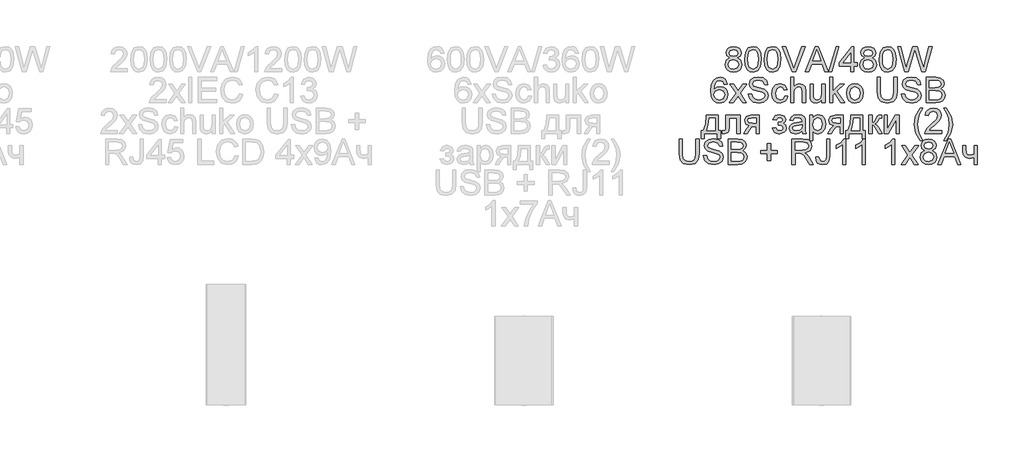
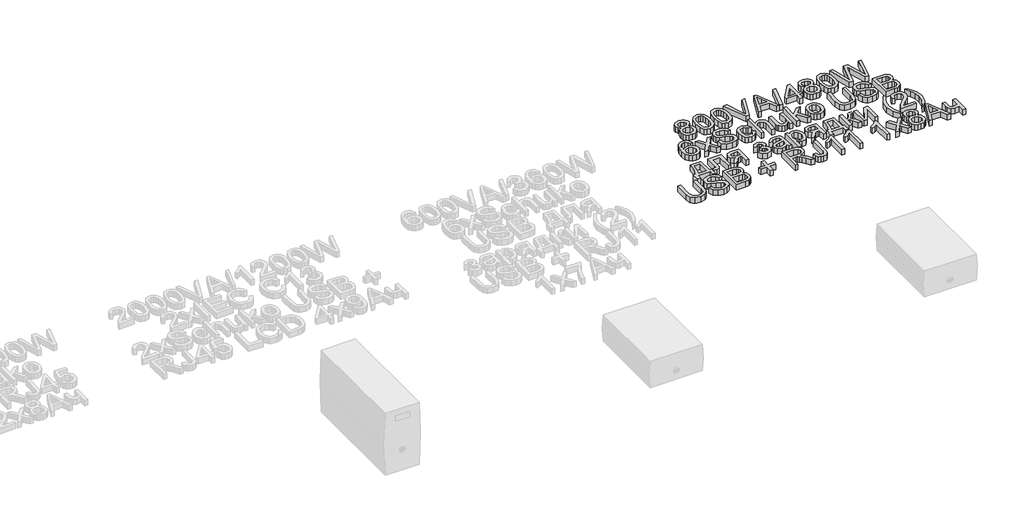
# One storey, part 51 of 74: 1 proxy.
"""IFC4 building model written with IfcOpenShell, lengths in millimetres."""

import ifcopenshell
import ifcopenshell.guid

model = None  # the IFC model being written
_history = None  # IfcOwnerHistory: only IFC2X3 demands one
_inside = {}  # id of a spatial element -> (the spatial element, [elements in it])
_under = {}  # id of a project, library or spatial element -> (it, [spatial elements below it])
_declared = {}  # id of a project -> (the project, [libraries it declares])
_typed = {}  # id of a type object -> (the type object, [elements of that type])
_made_of = {}  # id of a material, layer set ... -> (it, [elements and type objects made of it])


def new_model(schema):
    """Start an empty IFC model of exactly this schema.

    Asked for "IFC4X3", IfcOpenShell would pick the latest addendum, in which some entities
    have other attributes; the version numbers below select the first issue.
    IFC2X3 requires an IfcOwnerHistory on every rooted entity: one is made here for all.
    """
    global model, _history
    if schema == "IFC4X3":
        model = ifcopenshell.file(schema_version=(4, 3, 0, 0))
    else:
        model = ifcopenshell.file(schema=schema)
    _inside.clear()
    _under.clear()
    _declared.clear()
    _typed.clear()
    _made_of.clear()
    _history = None
    if model.schema == "IFC2X3":
        org = make("IfcOrganization", Name="unknown")
        user = make(
            "IfcPersonAndOrganization",
            ThePerson=make("IfcPerson", FamilyName="unknown"),
            TheOrganization=org,
        )
        app = make(
            "IfcApplication",
            ApplicationDeveloper=org,
            Version="unknown",
            ApplicationFullName="unknown",
            ApplicationIdentifier="unknown",
        )
        _history = make(
            "IfcOwnerHistory",
            OwningUser=user,
            OwningApplication=app,
            ChangeAction="ADDED",
            CreationDate=0,
        )
    return model


def make(cls, **values):
    """One entity of the class cls with the attributes given. An attribute that is None is left unset."""
    return model.create_entity(
        cls, **{name: value for name, value in values.items() if value is not None}
    )


def rooted(cls, **values):
    """An entity with a GlobalId (a new one), such as an element, a storey or a relation."""
    return make(cls, GlobalId=ifcopenshell.guid.new(), OwnerHistory=_history, **values)


def si_unit(unit_type, name, prefix=None):
    """IfcSIUnit, for example si_unit("LENGTHUNIT", "METRE", prefix="MILLI")."""
    return make("IfcSIUnit", UnitType=unit_type, Prefix=prefix, Name=name)


def assignment(units):
    """IfcUnitAssignment: the units of a project."""
    return None if units is None else make("IfcUnitAssignment", Units=units)


def point(xyz):
    """IfcCartesianPoint."""
    return None if xyz is None else make("IfcCartesianPoint", Coordinates=xyz)


def direction(xyz):
    """IfcDirection."""
    return None if xyz is None else make("IfcDirection", DirectionRatios=xyz)


def frame(location, z_axis=None, x_axis=None):
    """IfcAxis2Placement3D, a coordinate frame: its origin and axes. An axis left out is left unset."""
    return make(
        "IfcAxis2Placement3D",
        Location=point(location),
        Axis=direction(z_axis),
        RefDirection=direction(x_axis),
    )


def origin():
    """The frame at (0, 0, 0) with its axes left unset."""
    return frame((0.0, 0.0, 0.0))


def origin_with_axes():
    """The frame at (0, 0, 0) with the z axis (0, 0, 1) and the x axis (1, 0, 0) written out."""
    return frame((0.0, 0.0, 0.0), z_axis=(0.0, 0.0, 1.0), x_axis=(1.0, 0.0, 0.0))


def place(relative_to, where):
    """IfcLocalPlacement: puts the frame where relative to a parent placement (None: the world)."""
    return make(
        "IfcLocalPlacement", PlacementRelTo=relative_to, RelativePlacement=where
    )


def context(
    kind, dimensions, precision=None, world=None, true_north=None, identifier=None
):
    """IfcGeometricRepresentationContext, for example the 3D "Model" context."""
    return make(
        "IfcGeometricRepresentationContext",
        ContextIdentifier=identifier,
        ContextType=kind,
        CoordinateSpaceDimension=dimensions,
        Precision=precision,
        WorldCoordinateSystem=world,
        TrueNorth=true_north,
    )


def project(units=None, contexts=None):
    """IfcProject with its units and contexts."""
    return rooted(
        "IfcProject",
        Name="project",
        RepresentationContexts=contexts,
        UnitsInContext=assignment(units),
    )


def spatial(cls, under=None, at=None, **own):
    """A site, building, storey or space (cls), placed at a placement, below another one or the project."""
    s = rooted(cls, ObjectPlacement=at, **own)
    if under is not None:
        _under.setdefault(under.id(), (under, []))[1].append(s)
    return s


def polyline(points):
    """IfcPolyline through the points."""
    return make("IfcPolyline", Points=[point(p) for p in points])


def outline(outer, holes=None, kind="AREA"):
    """IfcArbitraryClosedProfileDef: a profile drawn as a closed curve; with holes, ...WithVoids."""
    if holes is None:
        return make("IfcArbitraryClosedProfileDef", ProfileType=kind, OuterCurve=outer)
    return make(
        "IfcArbitraryProfileDefWithVoids",
        ProfileType=kind,
        OuterCurve=outer,
        InnerCurves=holes,
    )


def extrude(swept, where, along, depth):
    """IfcExtrudedAreaSolid: the profile swept, set in the frame where, extruded along a direction by depth."""
    return make(
        "IfcExtrudedAreaSolid",
        SweptArea=swept,
        Position=where,
        ExtrudedDirection=direction(along),
        Depth=depth,
    )


def shape(context_of_items, identifier, shape_type, items):
    """IfcShapeRepresentation: the items that make up one representation, for example the "Body"."""
    return make(
        "IfcShapeRepresentation",
        ContextOfItems=context_of_items,
        RepresentationIdentifier=identifier,
        RepresentationType=shape_type,
        Items=items,
    )


def made_of(thing, what):
    """Note that an element or type object is made of a material, layer set ...; save() writes the relation."""
    if what is not None:
        _made_of.setdefault(what.id(), (what, []))[1].append(thing)
    return thing


def element(
    cls,
    number,
    at=None,
    inside=None,
    cuts=None,
    type_object=None,
    material=None,
    context=None,
    identifier="Body",
    shape_type=None,
    held_by="IfcProductDefinitionShape",
    body=None,
    shapes=None,
    **own,
):
    """One element of the class cls, such as IfcWall. Its Tag is "e" and its number.

    at: its placement. inside: the storey or other place that contains it. cuts: it is an
    opening in that element (IfcRelVoidsElement). A single representation is given by context,
    identifier, shape_type and body (its items); several are given by shapes. held_by: the class
    of the entity that holds the representations. save() writes the other relations.
    """
    e = rooted(cls, Tag="e%d" % number, ObjectPlacement=at, **own)
    if body is not None:
        shapes = [shape(context, identifier, shape_type, body)]
    if shapes is not None:
        e.Representation = make(held_by, Representations=shapes)
    if inside is not None:
        _inside.setdefault(inside.id(), (inside, []))[1].append(e)
    if cuts is not None:
        rooted(
            "IfcRelVoidsElement", RelatingBuildingElement=cuts, RelatedOpeningElement=e
        )
    if type_object is not None:
        _typed.setdefault(type_object.id(), (type_object, []))[1].append(e)
    return made_of(e, material)


def aggregate(whole, parts):
    """IfcRelAggregates: a whole, such as a stair, and the parts it consists of."""
    return rooted("IfcRelAggregates", RelatingObject=whole, RelatedObjects=parts)


def save(model, path):
    """Write the relations noted so far, then the file.

    IfcRelAggregates (storeys below a building ...), IfcRelContainedInSpatialStructure (elements
    in a storey), IfcRelDefinesByType, IfcRelAssociatesMaterial and IfcRelDeclares: one each for
    every whole, place, type object, material and project.
    """
    for whole, parts in _under.values():
        aggregate(whole, parts)
    for where, things in _inside.values():
        rooted(
            "IfcRelContainedInSpatialStructure",
            RelatedElements=things,
            RelatingStructure=where,
        )
    for kind, things in _typed.values():
        rooted("IfcRelDefinesByType", RelatedObjects=things, RelatingType=kind)
    for what, things in _made_of.values():
        rooted("IfcRelAssociatesMaterial", RelatedObjects=things, RelatingMaterial=what)
    for by, libraries in _declared.values():
        rooted("IfcRelDeclares", RelatingContext=by, RelatedDefinitions=libraries)
    model.write(path)


model = new_model("IFC4")

# Units and contexts
model_context = context("Model", 3, world=origin())
ifc_project = project(units=[si_unit("LENGTHUNIT", "METRE", prefix="MILLI")], contexts=[model_context])

# Site, building, storey
site = spatial("IfcSite", under=ifc_project)
building = spatial("IfcBuilding", under=site)
storey = spatial("IfcBuildingStorey", under=building, Name="Этаж 01", Elevation=0.0)

# Proxy
placement = place(None, origin())
element("IfcBuildingElementProxy", 1, Name="80 мм Arial", ObjectType="80 мм Arial", at=placement, inside=storey, context=model_context, shape_type="SweptSolid", body=[
    extrude(outline(polyline([(10479.4918629, -10982.3697643), (10470.3389588, -10976.1304857), (10467.3664723, -10966.418401), (10468.9851531, -10958.5653467), (10473.8411954, -10952.0759083), (10481.390134, -10947.7201854), (10491.0875034, -10946.2682778), (10500.8437339, -10947.7545211), (10508.4907743, -10952.2132509), (10513.4351083, -10958.8056962), (10515.0832196, -10966.6930862), (10512.1499739, -10976.1599162), (10503.2521347, -10982.3697643), (10513.9354278, -10990.2473441), (10517.5946274, -11003.2458413), (10515.7797429, -11012.8500139), (10510.3350894, -11020.7864548), (10501.9277595, -11026.1133861), (10491.224846, -11027.8890298), (10480.5219325, -11026.1060284), (10472.1146026, -11020.7570242), (10466.6699491, -11012.7445544), (10464.8550646, -11002.971156), (10468.6614169, -10989.6685431), (10479.4918629, -10982.3697643)]), holes=[polyline([(10477.4121033, -10966.7127066), (10480.973201, -10974.6000966), (10491.3425682, -10977.6608748), (10501.5059215, -10974.6197169), (10505.0375886, -10967.1639752), (10501.3881992, -10959.4433584), (10491.224846, -10956.3139089), (10481.0320622, -10959.3746871), (10477.4121033, -10966.7127066)]), polyline([(10474.9006956, -11002.6179893), (10476.5782375, -11010.1816431), (10482.5134003, -11015.8421208), (10491.3033275, -11017.8433988), (10503.271755, -11013.6348288), (10507.5489964, -11002.9319153), (10503.1344124, -10992.0229879), (10490.9697811, -10987.7065058), (10479.1485063, -10991.9641267), (10474.9006956, -11002.6179893)])]), origin_with_axes(), (0.0, 0.0, 1.0), 20.0),
    extrude(outline(polyline([(10526.3845545, -10987.0982742), (10529.3374207, -10963.9756645), (10538.1077274, -10950.643621), (10552.7543359, -10946.2682778), (10564.487319, -10948.8581671), (10572.5905331, -10956.323719), (10577.2994227, -10968.2136651), (10579.1241174, -10987.0982742), (10576.2006818, -11010.122782), (10567.4598056, -11023.4842561), (10552.7543359, -11027.8890298), (10542.3162975, -11025.9760435), (10534.3896667, -11020.2370843), (10528.3858326, -11006.6450709), (10526.3845545, -10987.0982742)]), holes=[polyline([(10536.4301855, -10987.0786538), (10537.6074079, -11002.8804118), (10541.1390751, -11012.0259582), (10552.7543359, -11017.8433988), (10564.3695968, -11012.0063378), (10567.901264, -11002.8558863), (10569.0784863, -10987.0786538), (10567.9405047, -10971.6325151), (10564.5265598, -10962.4158449), (10559.27811, -10957.8393929), (10552.6366137, -10956.3139089), (10541.2960381, -10961.6898911), (10537.6466487, -10971.4804572), (10536.4301855, -10987.0786538)])]), origin_with_axes(), (0.0, 0.0, 1.0), 20.0),
    extrude(outline(polyline([(10587.9140445, -10987.0982742), (10590.8669106, -10963.9756645), (10599.6372174, -10950.643621), (10614.2838259, -10946.2682778), (10626.016809, -10948.8581671), (10634.1200231, -10956.323719), (10638.8289126, -10968.2136651), (10640.6536073, -10987.0982742), (10637.7301717, -11010.122782), (10628.9892955, -11023.4842561), (10614.2838259, -11027.8890298), (10603.8457874, -11025.9760435), (10595.9191567, -11020.2370843), (10589.9153225, -11006.6450709), (10587.9140445, -10987.0982742)]), holes=[polyline([(10597.9596755, -10987.0786538), (10599.1368979, -11002.8804118), (10602.668565, -11012.0259582), (10614.2838259, -11017.8433988), (10625.8990868, -11012.0063378), (10629.4307539, -11002.8558863), (10630.6079763, -10987.0786538), (10629.4699947, -10971.6325151), (10626.0560498, -10962.4158449), (10620.8076, -10957.8393929), (10614.1661037, -10956.3139089), (10602.825528, -10961.6898911), (10599.1761386, -10971.4804572), (10597.9596755, -10987.0786538)])]), origin_with_axes(), (0.0, 0.0, 1.0), 20.0),
    extrude(outline(polyline([(10717.9382569, -11026.633326), (10750.0175668, -10946.2682778), (10758.5720495, -10946.2682778), (10790.6513595, -11026.633326), (10780.0367377, -11026.633326), (10770.8347827, -11001.5192484), (10737.7352133, -11001.5192484), (10728.5528787, -11026.633326), (10717.9382569, -11026.633326)]), holes=[polyline([(10741.4238434, -10991.4736174), (10767.1657729, -10991.4736174), (10759.9258553, -10971.7159017), (10754.2948082, -10956.3139089), (10749.291613, -10969.9893089), (10741.4238434, -10991.4736174)])]), origin_with_axes(), (0.0, 0.0, 1.0), 20.0),
    extrude(outline(polyline([(10676.9512975, -11026.633326), (10644.9700894, -10946.2682778), (10655.7220538, -10946.2682778), (10677.1278809, -11004.1679988), (10681.4639833, -11017.2155469), (10685.7412247, -11004.1679988), (10707.2059128, -10946.2682778), (10717.9578772, -10946.2682778), (10687.3304749, -11026.633326), (10676.9512975, -11026.633326)])), origin_with_axes(), (0.0, 0.0, 1.0), 20.0),
    extrude(outline(polyline([(10792.5937764, -11026.633326), (10815.1964462, -10946.2682778), (10824.2610586, -10946.2682778), (10801.6583888, -11026.633326), (10792.5937764, -11026.633326)])), origin_with_axes(), (0.0, 0.0, 1.0), 20.0),
    extrude(outline(polyline([(10861.6574897, -11026.633326), (10861.6574897, -11007.7977678), (10825.2420772, -11007.7977678), (10825.2420772, -10997.7521368), (10864.1688974, -10947.5239817), (10871.7031207, -10947.5239817), (10871.7031207, -10997.7521368), (10881.7487517, -10997.7521368), (10881.7487517, -11007.7977678), (10871.7031207, -11007.7977678), (10871.7031207, -11026.633326), (10861.6574897, -11026.633326)]), holes=[polyline([(10861.6574897, -10997.7521368), (10861.6574897, -10966.7127066), (10837.6029123, -10997.7521368), (10861.6574897, -10997.7521368)])]), origin_with_axes(), (0.0, 0.0, 1.0), 20.0),
    extrude(outline(polyline([(10905.1754771, -10982.3697643), (10896.0225731, -10976.1304857), (10893.0500866, -10966.418401), (10894.6687674, -10958.5653467), (10899.5248097, -10952.0759083), (10907.0737482, -10947.7201854), (10916.7711176, -10946.2682778), (10926.5273481, -10947.7545211), (10934.1743885, -10952.2132509), (10939.1187226, -10958.8056962), (10940.7668339, -10966.6930862), (10937.8335881, -10976.1599162), (10928.9357489, -10982.3697643), (10939.6190421, -10990.2473441), (10943.2782416, -11003.2458413), (10941.4633571, -11012.8500139), (10936.0187036, -11020.7864548), (10927.6113737, -11026.1133861), (10916.9084602, -11027.8890298), (10906.2055467, -11026.1060284), (10897.7982169, -11020.7570242), (10892.3535633, -11012.7445544), (10890.5386788, -11002.971156), (10894.3450312, -10989.6685431), (10905.1754771, -10982.3697643)]), holes=[polyline([(10903.0957176, -10966.7127066), (10906.6568153, -10974.6000966), (10917.0261825, -10977.6608748), (10927.1895357, -10974.6197169), (10930.7212029, -10967.1639752), (10927.0718135, -10959.4433584), (10916.9084602, -10956.3139089), (10906.7156764, -10959.3746871), (10903.0957176, -10966.7127066)]), polyline([(10900.5843098, -11002.6179893), (10902.2618517, -11010.1816431), (10908.1970146, -11015.8421208), (10916.9869417, -11017.8433988), (10928.9553693, -11013.6348288), (10933.2326106, -11002.9319153), (10928.8180267, -10992.0229879), (10916.6533954, -10987.7065058), (10904.8321206, -10991.9641267), (10900.5843098, -11002.6179893)])]), origin_with_axes(), (0.0, 0.0, 1.0), 20.0),
    extrude(outline(polyline([(10952.0681688, -10987.0982742), (10955.0210349, -10963.9756645), (10963.7913417, -10950.643621), (10978.4379502, -10946.2682778), (10990.1709333, -10948.8581671), (10998.2741474, -10956.323719), (11002.9830369, -10968.2136651), (11004.8077316, -10987.0982742), (11001.884296, -11010.122782), (10993.1434198, -11023.4842561), (10978.4379502, -11027.8890298), (10967.9999117, -11025.9760435), (10960.073281, -11020.2370843), (10954.0694468, -11006.6450709), (10952.0681688, -10987.0982742)]), holes=[polyline([(10962.1137998, -10987.0786538), (10963.2910222, -11002.8804118), (10966.8226893, -11012.0259582), (10978.4379502, -11017.8433988), (10990.0532111, -11012.0063378), (10993.5848782, -11002.8558863), (10994.7621006, -10987.0786538), (10993.624119, -10971.6325151), (10990.210174, -10962.4158449), (10984.9617242, -10957.8393929), (10978.320228, -10956.3139089), (10966.9796523, -10961.6898911), (10963.3302629, -10971.4804572), (10962.1137998, -10987.0786538)])]), origin_with_axes(), (0.0, 0.0, 1.0), 20.0),
    extrude(outline(polyline([(11031.7465038, -11026.633326), (11009.8305471, -10946.2682778), (11020.1901041, -10946.2682778), (11032.9041059, -10999.0863222), (11036.8281805, -11015.3908522), (11041.0269403, -11000.969878), (11056.9586833, -10946.2682778), (11071.8897872, -10946.2682778), (11083.4658073, -10985.9210518), (11092.0791511, -11015.3908522), (11095.8855034, -10999.5572111), (11108.7172274, -10946.2682778), (11119.0767844, -10946.2682778), (11097.1412073, -11026.633326), (11086.4088632, -11026.633326), (11067.1416569, -10964.632947), (11064.4536658, -10955.9803625), (11061.4321283, -10966.3987806), (11043.8718944, -11026.633326), (11031.7465038, -11026.633326)])), origin_with_axes(), (0.0, 0.0, 1.0), 20.0),
    extrude(outline(polyline([(10471.7614359, -11065.195098), (10461.7158049, -11066.4508019), (10457.9094525, -11058.0729026), (10447.8442011, -11053.8937631), (10438.7795887, -11056.3266894), (10431.9222684, -11065.4599731), (10429.0675041, -11083.3635635), (10437.9261025, -11075.3486411), (10448.9037012, -11072.7293213), (10458.1841377, -11074.5196803), (10465.9734258, -11079.8907575), (10471.2562113, -11088.0969785), (10473.0171398, -11098.3927693), (10469.7012967, -11112.2545628), (10460.5778232, -11122.0647494), (10447.4125529, -11125.4688841), (10436.0155687, -11123.2125412), (10426.9386936, -11116.4435125), (10421.0010782, -11104.4947053), (10419.0218731, -11086.6990269), (10421.2193548, -11066.6911515), (10427.8118002, -11053.0108463), (10436.8126463, -11046.1388107), (10448.472053, -11043.8481321), (10457.2865056, -11045.2657041), (10464.3449349, -11049.5184199), (10471.7614359, -11065.195098)]), holes=[polyline([(10429.0675041, -11098.2358063), (10431.3925183, -11106.9374417), (10437.5729358, -11113.2552019), (10446.627738, -11115.4232531), (10458.4686331, -11110.9301877), (10462.9715087, -11098.7263156), (10458.5274942, -11087.0423834), (10446.2157101, -11082.7749523), (10434.060889, -11087.0423834), (10429.0675041, -11098.2358063)])]), origin_with_axes(), (0.0, 0.0, 1.0), 20.0),
    extrude(outline(polyline([(10478.0399553, -11124.2131802), (10499.5046434, -11094.5471761), (10479.2956591, -11065.195098), (10491.381809, -11065.195098), (10501.1331344, -11079.3217666), (10505.6850609, -11085.9926935), (10509.6287559, -11080.5382298), (10520.7338871, -11065.195098), (10532.8200369, -11065.195098), (10511.5907932, -11094.5471761), (10532.035222, -11124.2131802), (10519.9490722, -11124.2131802), (10507.6470982, -11106.3782611), (10505.3907553, -11103.1212792), (10490.1261051, -11124.2131802), (10478.0399553, -11124.2131802)])), origin_with_axes(), (0.0, 0.0, 1.0), 20.0),
    extrude(outline(polyline([(10538.3137414, -11096.5876949), (10548.3593724, -11096.5876949), (10551.5967339, -11106.6431361), (10559.5037443, -11113.000137), (10571.5506533, -11115.4232531), (10582.0475529, -11113.5887482), (10588.8263918, -11108.5463123), (10591.0533042, -11101.8067142), (10589.3855725, -11095.538005), (10582.5576826, -11090.9762682), (10567.9306945, -11087.1404853), (10552.1853451, -11082.1863411), (10543.6406726, -11074.710979), (10540.8251491, -11064.7242091), (10544.3077653, -11053.3542029), (10554.4809288, -11045.3294703), (10569.3727919, -11042.5924282), (10585.2652941, -11045.4570027), (10595.8602956, -11053.8741428), (10599.8432313, -11066.4508019), (10589.7976003, -11066.4508019), (10584.1076921, -11056.1304857), (10569.7651994, -11052.6380593), (10555.3834659, -11056.0912449), (10550.8707801, -11064.4299035), (10554.0689009, -11071.3951359), (10570.4715328, -11077.0065626), (10588.2475908, -11082.0489985), (10597.9694857, -11090.1914533), (10601.0989352, -11101.5516493), (10597.4985967, -11113.5691278), (10587.1390398, -11122.3394346), (10571.9430608, -11125.4688841), (10554.0002296, -11122.0941799), (10542.6498438, -11111.9308267), (10538.3137414, -11096.5876949)])), origin_with_axes(), (0.0, 0.0, 1.0), 20.0),
    extrude(outline(polyline([(10652.5827942, -11102.8662143), (10662.6284252, -11104.1219182), (10659.8276169, -11113.0565456), (10654.5644518, -11119.8084065), (10638.6327089, -11125.4688841), (10627.9469632, -11123.4945841), (10619.5911368, -11117.571684), (10614.1979868, -11107.9601537), (10612.4002701, -11094.9199632), (10615.4708585, -11078.2328359), (10624.8297764, -11067.510302), (10638.4953663, -11063.9393941), (10653.7698267, -11068.8444874), (10661.3727213, -11082.7749523), (10651.3270903, -11084.0306562), (10646.6672517, -11076.5062431), (10638.5738478, -11073.9850252), (10626.9291564, -11078.9489796), (10622.4459011, -11094.645278), (10626.8310545, -11110.4887293), (10638.2991626, -11115.4232531), (10647.7659926, -11112.3428545), (10652.5827942, -11102.8662143)])), origin_with_axes(), (0.0, 0.0, 1.0), 20.0),
    extrude(outline(polyline([(10671.4183523, -11124.2131802), (10671.4183523, -11043.8481321), (10681.4639833, -11043.8481321), (10681.4639833, -11073.396414), (10689.2974173, -11066.3036491), (10698.9457357, -11063.9393941), (10710.2274502, -11066.5194732), (10717.0749605, -11073.6514788), (10719.1350996, -11086.8559899), (10719.1350996, -11124.2131802), (10709.0894686, -11124.2131802), (10709.0894686, -11087.8958697), (10705.8913478, -11077.3008682), (10696.8267354, -11073.9850252), (10688.5959889, -11076.2217477), (10683.1022845, -11082.284443), (10681.4639833, -11092.8598241), (10681.4639833, -11124.2131802), (10671.4183523, -11124.2131802)])), origin_with_axes(), (0.0, 0.0, 1.0), 20.0),
    extrude(outline(polyline([(10770.6189586, -11124.2131802), (10770.6189586, -11114.0694474), (10762.751189, -11122.6190249), (10752.4897339, -11125.4688841), (10743.0425242, -11123.4676061), (10736.5285604, -11118.4447906), (10733.5364535, -11111.0479099), (10732.9478423, -11101.7086123), (10732.9478423, -11065.195098), (10742.9934733, -11065.195098), (10742.9934733, -11096.9801024), (10743.6017049, -11107.2219372), (10747.5748304, -11113.2355815), (10755.0600027, -11115.4232531), (10763.4477122, -11113.1865306), (10768.9904676, -11107.0944047), (10770.6189586, -11095.9009819), (10770.6189586, -11065.195098), (10780.6645896, -11065.195098), (10780.6645896, -11124.2131802), (10770.6189586, -11124.2131802)])), origin_with_axes(), (0.0, 0.0, 1.0), 20.0),
    extrude(outline(polyline([(10794.4773322, -11124.2131802), (10794.4773322, -11043.8481321), (10804.5229633, -11043.8481321), (10804.5229633, -11087.0325733), (10827.0471515, -11065.195098), (10840.9383757, -11065.195098), (10818.1395022, -11087.3072585), (10842.1940796, -11124.2131802), (10830.4610965, -11124.2131802), (10810.9388252, -11094.2921113), (10804.5229633, -11100.5117696), (10804.5229633, -11124.2131802), (10794.4773322, -11124.2131802)])), origin_with_axes(), (0.0, 0.0, 1.0), 20.0),
    extrude(outline(polyline([(10848.4725989, -11094.7041391), (10850.6455553, -11080.4744636), (10857.1644242, -11070.4729784), (10865.2185874, -11065.5727902), (10874.8620007, -11063.9393941), (10885.4153089, -11065.9284095), (10893.8447117, -11071.8954554), (10899.3702992, -11081.3696431), (10901.2121618, -11093.8800835), (10897.9551798, -11111.7542433), (10888.4687295, -11121.8685457), (10874.8620007, -11125.4688841), (10864.1811601, -11123.4872264), (10855.7615675, -11117.5422534), (10850.2948411, -11107.8694095), (10848.4725989, -11094.7041391)]), holes=[polyline([(10858.51823, -11094.6845188), (10863.1682584, -11110.2532848), (10874.8620007, -11115.4232531), (10886.5165023, -11110.2238542), (10891.1665308, -11094.3705928), (10886.4870718, -11079.1549935), (10874.8620007, -11073.9850252), (10863.1682584, -11079.1353731), (10858.51823, -11094.6845188)])]), origin_with_axes(), (0.0, 0.0, 1.0), 20.0),
    extrude(outline(polyline([(10997.9013603, -11043.8481321), (11007.9469913, -11043.8481321), (11007.9469913, -11090.2110737), (11005.2197594, -11109.4292291), (10995.3899525, -11121.0052492), (10976.7505981, -11125.4688841), (10958.3957391, -11121.5840502), (10948.2127655, -11110.3317663), (10945.1617975, -11090.2110737), (10945.1617975, -11043.8481321), (10955.2074285, -11043.8481321), (10955.2074285, -11089.857907), (10957.1890862, -11105.1716082), (10963.9973556, -11112.7548824), (10975.8088202, -11115.4232531), (10986.0261295, -11114.103783), (10992.8196837, -11110.1453727), (10996.6309411, -11102.4345661), (10997.9013603, -11089.857907), (10997.9013603, -11043.8481321)])), origin_with_axes(), (0.0, 0.0, 1.0), 20.0),
    extrude(outline(polyline([(11021.759734, -11096.5876949), (11031.805365, -11096.5876949), (11035.0427265, -11106.6431361), (11042.9497369, -11113.000137), (11054.9966459, -11115.4232531), (11065.4935455, -11113.5887482), (11072.2723844, -11108.5463123), (11074.4992968, -11101.8067142), (11072.8315651, -11095.538005), (11066.0036752, -11090.9762682), (11051.3766871, -11087.1404853), (11035.6313377, -11082.1863411), (11027.0866652, -11074.710979), (11024.2711417, -11064.7242091), (11027.7537579, -11053.3542029), (11037.9269214, -11045.3294703), (11052.8187845, -11042.5924282), (11068.7112867, -11045.4570027), (11079.3062882, -11053.8741428), (11083.2892239, -11066.4508019), (11073.2435929, -11066.4508019), (11067.5536847, -11056.1304857), (11053.211192, -11052.6380593), (11038.8294585, -11056.0912449), (11034.3167727, -11064.4299035), (11037.5148935, -11071.3951359), (11053.9175254, -11077.0065626), (11071.6935834, -11082.0489985), (11081.4154783, -11090.1914533), (11084.5449278, -11101.5516493), (11080.9445893, -11113.5691278), (11070.5850324, -11122.3394346), (11055.3890534, -11125.4688841), (11037.4462222, -11122.0941799), (11026.0958364, -11111.9308267), (11021.759734, -11096.5876949)])), origin_with_axes(), (0.0, 0.0, 1.0), 20.0),
    extrude(outline(polyline([(11099.6133743, -11124.2131802), (11099.6133743, -11043.8481321), (11130.2800174, -11043.8481321), (11145.299413, -11046.2123871), (11154.1678217, -11053.4817353), (11157.3757527, -11063.7628108), (11154.6779514, -11073.1511593), (11146.5256863, -11080.2635445), (11156.4241646, -11087.7585271), (11159.8871604, -11100.2567047), (11157.5229055, -11111.0577201), (11151.6662241, -11118.7489063), (11142.9253479, -11122.8299439), (11130.044573, -11124.2131802), (11099.6133743, -11124.2131802)]), holes=[polyline([(11109.6590053, -11076.4964329), (11128.0040542, -11076.4964329), (11138.7167779, -11075.6331365), (11145.1620704, -11071.9150758), (11147.3301216, -11065.3716814), (11145.3092232, -11058.8184768), (11139.5212132, -11054.9434531), (11126.6110077, -11053.8937631), (11109.6590053, -11053.8937631), (11109.6590053, -11076.4964329)]), polyline([(11109.6590053, -11114.1675492), (11130.2603971, -11114.1675492), (11137.7161388, -11113.7751418), (11144.0240888, -11111.5874702), (11148.2032282, -11107.1238353), (11149.8415294, -11100.3548066), (11147.9187328, -11092.5458981), (11141.6892644, -11087.8860595), (11129.2793784, -11086.5420639), (11109.6590053, -11086.5420639), (11109.6590053, -11114.1675492)])]), origin_with_axes(), (0.0, 0.0, 1.0), 20.0),
    extrude(outline(polyline([(10405.2091304, -11162.7749523), (10442.8802467, -11162.7749523), (10442.8802467, -11211.7474035), (10450.41447, -11211.7474035), (10450.41447, -11238.1171849), (10440.368839, -11238.1171849), (10440.368839, -11221.7930345), (10398.930611, -11221.7930345), (10398.930611, -11238.1171849), (10388.88498, -11238.1171849), (10388.88498, -11211.7474035), (10395.1634994, -11211.7474035), (10402.9233569, -11192.5881092), (10405.2091304, -11162.7749523)]), holes=[polyline([(10413.9990575, -11172.8205833), (10411.6446128, -11195.7077485), (10406.4648343, -11211.7474035), (10432.8346157, -11211.7474035), (10432.8346157, -11172.8205833), (10413.9990575, -11172.8205833)])]), origin_with_axes(), (0.0, 0.0, 1.0), 20.0),
    extrude(outline(polyline([(10466.7386204, -11162.7749523), (10511.9439599, -11162.7749523), (10511.9439599, -11221.7341734), (10501.8983289, -11221.7341734), (10501.8983289, -11172.8205833), (10476.7842514, -11172.8205833), (10476.7842514, -11200.9758187), (10476.1073485, -11213.9645057), (10472.3892878, -11219.4483999), (10463.5993607, -11221.7930345), (10455.4372855, -11221.2829048), (10455.4372855, -11211.7474035), (10459.9303509, -11211.7474035), (10464.4724673, -11211.1293617), (10466.2873518, -11209.1673244), (10466.7386204, -11200.4068279), (10466.7386204, -11162.7749523)])), origin_with_axes(), (0.0, 0.0, 1.0), 20.0),
    extrude(outline(polyline([(10572.217746, -11162.7749523), (10572.217746, -11221.7930345), (10562.172115, -11221.7930345), (10562.172115, -11199.1903647), (10556.6980309, -11199.1903647), (10549.2422892, -11200.465689), (10542.237816, -11209.039792), (10534.2327038, -11221.7930345), (10522.6174429, -11221.7930345), (10532.7023147, -11205.6650878), (10541.2567973, -11197.3068089), (10529.563055, -11191.2048729), (10525.7567026, -11179.8250565), (10530.9561015, -11167.5034622), (10546.0049276, -11162.7749523), (10572.217746, -11162.7749523)]), holes=[polyline([(10562.172115, -11172.8205833), (10548.9283632, -11172.8205833), (10538.2058293, -11175.1455975), (10535.8023336, -11180.5902511), (10539.3438109, -11187.0747844), (10551.8910395, -11189.1447337), (10562.172115, -11189.1447337), (10562.172115, -11172.8205833)])]), origin_with_axes(), (0.0, 0.0, 1.0), 20.0),
    extrude(outline(polyline([(10632.4915321, -11195.4232531), (10632.4915321, -11185.3776221), (10640.4181628, -11184.9852146), (10644.420719, -11182.8956449), (10646.3042748, -11178.5301119), (10643.7830568, -11173.4582454), (10637.2789032, -11171.5648794), (10630.5589254, -11173.4484353), (10626.2130127, -11179.0991027), (10614.9116778, -11177.8433988), (10622.4655215, -11165.600286), (10636.2586438, -11161.5192484), (10651.0131643, -11166.493013), (10656.3499058, -11178.3731489), (10654.4516347, -11184.6124275), (10648.7568214, -11189.4390393), (10655.3983177, -11195.6979383), (10657.6056097, -11204.7036896), (10656.2052055, -11212.0981177), (10652.0039931, -11217.9572516), (10636.3371252, -11223.0487384), (10620.8860814, -11218.3398489), (10613.655974, -11204.2131802), (10624.9573089, -11202.9574764), (10629.489615, -11210.3739774), (10637.2985235, -11213.0031074), (10644.6365431, -11210.4818894), (10647.5599786, -11204.0365969), (10645.7450941, -11198.7587165), (10641.8798806, -11195.9333828), (10634.4535694, -11195.364392), (10632.4915321, -11195.4232531)])), origin_with_axes(), (0.0, 0.0, 1.0), 20.0),
    extrude(outline(polyline([(10707.8337647, -11214.2588113), (10698.0922495, -11221.0670807), (10687.3304749, -11223.0487384), (10672.7427275, -11218.2809877), (10667.6512407, -11206.0967361), (10669.5740372, -11198.150485), (10674.6262833, -11192.3820953), (10681.6601871, -11189.0858726), (10690.3520123, -11187.5751039), (10707.7749036, -11184.1219182), (10707.8337647, -11181.8851957), (10705.0672921, -11174.4686947), (10693.962161, -11171.5648794), (10683.7988077, -11173.4974862), (10678.9525756, -11180.3548066), (10668.9069446, -11179.0991027), (10673.2528572, -11169.2889162), (10682.0035436, -11163.5401468), (10695.2571056, -11161.5192484), (10707.4315471, -11163.3047024), (10714.3084878, -11167.7879576), (10717.3888864, -11174.6060373), (10717.8793957, -11183.3959644), (10717.8793957, -11195.8941421), (10718.3895254, -11213.3464639), (10720.3908035, -11221.7930345), (10710.3451725, -11221.7930345), (10707.8337647, -11214.2588113)]), holes=[polyline([(10707.8337647, -11194.1675492), (10691.6273366, -11197.2479478), (10682.9845622, -11198.8764388), (10679.0702978, -11201.5251891), (10677.6968717, -11205.3904026), (10680.6889786, -11210.825246), (10689.4690955, -11213.0031074), (10699.6324488, -11210.5996117), (10706.1856534, -11204.7821711), (10707.7749036, -11197.0125033), (10707.8337647, -11194.1675492)])]), origin_with_axes(), (0.0, 0.0, 1.0), 20.0),
    extrude(outline(polyline([(10731.6921384, -11244.3957043), (10731.6921384, -11162.7749523), (10741.7377694, -11162.7749523), (10741.7377694, -11172.6243796), (10748.6833815, -11164.2955312), (10758.0619198, -11161.5192484), (10770.7955419, -11165.4040823), (10779.1145801, -11176.3522505), (10781.9202935, -11191.8327248), (10778.7516032, -11208.1078243), (10769.5496482, -11219.1933351), (10756.8454567, -11223.0487384), (10748.1045805, -11220.4686593), (10741.7377694, -11213.9448853), (10741.7377694, -11244.3957043), (10731.6921384, -11244.3957043)]), holes=[polyline([(10741.7377694, -11192.7548824), (10746.083682, -11208.0587734), (10756.6296326, -11213.0031074), (10767.3914072, -11207.88219), (10771.8746625, -11192.0093082), (10767.4993193, -11176.6661764), (10757.0416604, -11171.5648794), (10746.3779876, -11176.9899126), (10741.7377694, -11192.7548824)])]), origin_with_axes(), (0.0, 0.0, 1.0), 20.0),
    extrude(outline(polyline([(10838.4269679, -11162.7749523), (10838.4269679, -11221.7930345), (10828.3813369, -11221.7930345), (10828.3813369, -11199.1903647), (10822.9072528, -11199.1903647), (10815.4515111, -11200.465689), (10808.4470379, -11209.039792), (10800.4419257, -11221.7930345), (10788.8266648, -11221.7930345), (10798.9115366, -11205.6650878), (10807.4660192, -11197.3068089), (10795.7722769, -11191.2048729), (10791.9659245, -11179.8250565), (10797.1653233, -11167.5034622), (10812.2141495, -11162.7749523), (10838.4269679, -11162.7749523)]), holes=[polyline([(10828.3813369, -11172.8205833), (10815.1375851, -11172.8205833), (10804.4150512, -11175.1455975), (10802.0115555, -11180.5902511), (10805.5530328, -11187.0747844), (10818.1002614, -11189.1447337), (10828.3813369, -11189.1447337), (10828.3813369, -11172.8205833)])]), origin_with_axes(), (0.0, 0.0, 1.0), 20.0),
    extrude(outline(polyline([(10862.2853416, -11162.7749523), (10899.9564579, -11162.7749523), (10899.9564579, -11211.7474035), (10907.4906812, -11211.7474035), (10907.4906812, -11238.1171849), (10897.4450501, -11238.1171849), (10897.4450501, -11221.7930345), (10856.0068222, -11221.7930345), (10856.0068222, -11238.1171849), (10845.9611912, -11238.1171849), (10845.9611912, -11211.7474035), (10852.2397106, -11211.7474035), (10859.9995681, -11192.5881092), (10862.2853416, -11162.7749523)]), holes=[polyline([(10871.0752687, -11172.8205833), (10868.720824, -11195.7077485), (10863.5410455, -11211.7474035), (10889.9108269, -11211.7474035), (10889.9108269, -11172.8205833), (10871.0752687, -11172.8205833)])]), origin_with_axes(), (0.0, 0.0, 1.0), 20.0),
    extrude(outline(polyline([(10918.792016, -11162.7749523), (10928.8376471, -11162.7749523), (10928.8376471, -11187.8890298), (10935.567435, -11186.0839555), (10941.0807599, -11175.5674355), (10945.662117, -11166.493013), (10949.7039138, -11163.5401468), (10957.0517435, -11162.7749523), (10958.9745401, -11162.7749523), (10958.9745401, -11172.8794444), (10956.2669286, -11172.8205833), (10951.3618354, -11173.8800835), (10947.9086497, -11180.4921492), (10943.8570427, -11187.6437752), (10938.1769446, -11191.1460118), (10944.5143252, -11195.0553711), (10950.7339834, -11203.2910227), (10961.4859479, -11221.7930345), (10950.0668907, -11221.7930345), (10939.5307504, -11203.6834302), (10934.2332497, -11196.0216745), (10928.8376471, -11194.1675492), (10928.8376471, -11221.7930345), (10918.792016, -11221.7930345), (10918.792016, -11162.7749523)])), origin_with_axes(), (0.0, 0.0, 1.0), 20.0),
    extrude(outline(polyline([(10967.7644672, -11162.7749523), (10977.8100983, -11162.7749523), (10977.8100983, -11207.7840881), (11002.4925276, -11162.7749523), (11015.4812146, -11162.7749523), (11015.4812146, -11221.7930345), (11005.4355836, -11221.7930345), (11005.4355836, -11177.0585839), (10980.9101172, -11221.7930345), (10967.7644672, -11221.7930345), (10967.7644672, -11162.7749523)])), origin_with_axes(), (0.0, 0.0, 1.0), 20.0),
    extrude(outline(polyline([(11082.03352, -11244.3957043), (11067.7695088, -11220.8316362), (11061.942258, -11192.8529842), (11066.2979808, -11168.4256197), (11082.03352, -11141.4279864), (11089.5677433, -11141.4279864), (11080.1695846, -11157.340109), (11074.5189172, -11172.7617222), (11071.987889, -11192.9118453), (11076.3828526, -11218.663585), (11089.5677433, -11244.3957043), (11082.03352, -11244.3957043)])), origin_with_axes(), (0.0, 0.0, 1.0), 20.0),
    extrude(outline(polyline([(11148.5858255, -11211.7474035), (11148.5858255, -11221.7930345), (11095.8462627, -11221.7930345), (11096.9253832, -11214.8670428), (11103.0273192, -11204.2033701), (11115.6039784, -11192.5586786), (11132.9483882, -11175.8225004), (11137.2844906, -11164.442684), (11133.1936428, -11155.2309189), (11122.5103497, -11151.4736174), (11111.375788, -11155.1426272), (11107.1475976, -11165.2863601), (11097.1019666, -11164.0306562), (11099.5373454, -11154.3136664), (11104.802963, -11147.2159965), (11112.6241342, -11142.8749889), (11122.7261738, -11141.4279864), (11132.9017898, -11143.036857), (11140.7082457, -11147.8634688), (11145.6746527, -11155.0739559), (11147.3301216, -11163.8344524), (11145.5446677, -11173.3601436), (11139.6095048, -11183.2095709), (11125.2179612, -11196.9732626), (11113.6615614, -11206.6362963), (11109.1292553, -11211.7474035), (11148.5858255, -11211.7474035)])), origin_with_axes(), (0.0, 0.0, 1.0), 20.0),
    extrude(outline(polyline([(11163.654272, -11244.3957043), (11156.1200488, -11244.3957043), (11169.3049395, -11218.663585), (11173.6999031, -11192.9118453), (11171.1688749, -11172.9383056), (11165.5770686, -11157.4970719), (11156.1200488, -11141.4279864), (11163.654272, -11141.4279864), (11179.3898112, -11168.4256197), (11183.7455341, -11192.8529842), (11177.8888527, -11220.8316362), (11163.654272, -11244.3957043)])), origin_with_axes(), (0.0, 0.0, 1.0), 20.0),
    extrude(outline(polyline([(10371.9329777, -11239.0078407), (10381.9786087, -11239.0078407), (10381.9786087, -11285.3707822), (10379.2513768, -11304.5889377), (10369.4215699, -11316.1649578), (10350.7822155, -11320.6285927), (10332.4273565, -11316.7437588), (10322.2443829, -11305.4914748), (10319.1934148, -11285.3707822), (10319.1934148, -11239.0078407), (10329.2390459, -11239.0078407), (10329.2390459, -11285.0176155), (10331.2207035, -11300.3313167), (10338.028973, -11307.9145909), (10349.8404376, -11310.5829617), (10360.0577469, -11309.2634916), (10366.851301, -11305.3050813), (10370.6625585, -11297.5942747), (10371.9329777, -11285.0176155), (10371.9329777, -11239.0078407)])), origin_with_axes(), (0.0, 0.0, 1.0), 20.0),
    extrude(outline(polyline([(10395.7913513, -11291.7474035), (10405.8369823, -11291.7474035), (10409.0743439, -11301.8028447), (10416.9813543, -11308.1598456), (10429.0282633, -11310.5829617), (10439.5251629, -11308.7484568), (10446.3040018, -11303.7060209), (10448.5309142, -11296.9664227), (10446.8631824, -11290.6977135), (10440.0352926, -11286.1359768), (10425.4083045, -11282.3001939), (10409.6629551, -11277.3460497), (10401.1182826, -11269.8706875), (10398.3027591, -11259.8839176), (10401.7853753, -11248.5139114), (10411.9585387, -11240.4891788), (10426.8504019, -11237.7521368), (10442.7429041, -11240.6167113), (10453.3379056, -11249.0338513), (10457.3208413, -11261.6105105), (10447.2752103, -11261.6105105), (10441.5853021, -11251.2901942), (10427.2428094, -11247.7977678), (10412.8610759, -11251.2509535), (10408.3483901, -11259.589612), (10411.5465109, -11266.5548445), (10427.9491428, -11272.1662712), (10445.7252008, -11277.208707), (10455.4470957, -11285.3511619), (10458.5765452, -11296.7113579), (10454.9762067, -11308.7288364), (10444.6166497, -11317.4991432), (10429.4206708, -11320.6285927), (10411.4778396, -11317.2538885), (10400.1274538, -11307.0905352), (10395.7913513, -11291.7474035)])), origin_with_axes(), (0.0, 0.0, 1.0), 20.0),
    extrude(outline(polyline([(10473.6449917, -11319.3728888), (10473.6449917, -11239.0078407), (10504.3116348, -11239.0078407), (10519.3310304, -11241.3720956), (10528.199439, -11248.6414438), (10531.40737, -11258.9225193), (10528.7095687, -11268.3108679), (10520.5573037, -11275.4232531), (10530.4557819, -11282.9182356), (10533.9187778, -11295.4164133), (10531.5545228, -11306.2174286), (10525.6978415, -11313.9086149), (10516.9569653, -11317.9896525), (10504.0761903, -11319.3728888), (10473.6449917, -11319.3728888)]), holes=[polyline([(10483.6906227, -11271.6561415), (10502.0356715, -11271.6561415), (10512.7483952, -11270.7928451), (10519.1936878, -11267.0747844), (10521.361739, -11260.5313899), (10519.3408406, -11253.9781853), (10513.5528305, -11250.1031616), (10500.6426251, -11249.0534717), (10483.6906227, -11249.0534717), (10483.6906227, -11271.6561415)]), polyline([(10483.6906227, -11309.3272578), (10504.2920144, -11309.3272578), (10511.7477562, -11308.9348503), (10518.0557062, -11306.7471787), (10522.2348456, -11302.2835438), (10523.8731468, -11295.5145151), (10521.9503502, -11287.7056066), (10515.7208818, -11283.045768), (10503.3109958, -11281.7017725), (10483.6906227, -11281.7017725), (10483.6906227, -11309.3272578)])]), origin_with_axes(), (0.0, 0.0, 1.0), 20.0),
    extrude(outline(polyline([(10597.9596755, -11306.81585), (10597.9596755, -11285.4688841), (10576.6127096, -11285.4688841), (10576.6127096, -11275.4232531), (10597.9596755, -11275.4232531), (10597.9596755, -11254.0762872), (10608.0053065, -11254.0762872), (10608.0053065, -11275.4232531), (10629.3522724, -11275.4232531), (10629.3522724, -11285.4688841), (10608.0053065, -11285.4688841), (10608.0053065, -11306.81585), (10597.9596755, -11306.81585)])), origin_with_axes(), (0.0, 0.0, 1.0), 20.0),
    extrude(outline(polyline([(10675.8133159, -11319.3728888), (10675.8133159, -11239.0078407), (10710.4432744, -11239.0078407), (10726.5221701, -11241.1758919), (10735.3120972, -11248.8474578), (10738.5985097, -11261.0022789), (10733.1538562, -11275.4821142), (10716.3293863, -11282.9574764), (10722.0389148, -11287.2543381), (10730.1813697, -11297.5942747), (10743.5820845, -11319.3728888), (10731.9079625, -11319.3728888), (10721.4503036, -11302.715192), (10713.89646, -11291.6885424), (10708.5891491, -11286.4793333), (10703.8115883, -11284.566347), (10697.9843374, -11284.2131802), (10685.8589469, -11284.2131802), (10685.8589469, -11319.3728888), (10675.8133159, -11319.3728888)]), holes=[polyline([(10685.8589469, -11274.1675492), (10708.3438944, -11274.1675492), (10719.8120025, -11272.7450722), (10726.3259664, -11268.1931456), (10728.5528787, -11261.375066), (10724.3050679, -11252.5262777), (10710.8749226, -11249.0534717), (10685.8589469, -11249.0534717), (10685.8589469, -11274.1675492)])]), origin_with_axes(), (0.0, 0.0, 1.0), 20.0),
    extrude(outline(polyline([(10751.1555485, -11296.8094598), (10761.2011795, -11295.5145151), (10764.6347448, -11307.3848408), (10773.110746, -11310.5829617), (10779.9876867, -11308.7680771), (10783.9706225, -11303.8237431), (10785.0595532, -11293.8664038), (10785.0595532, -11239.0078407), (10795.1051842, -11239.0078407), (10795.1051842, -11293.6898204), (10792.6820681, -11309.2978272), (10784.9908819, -11317.7247775), (10772.639857, -11320.6285927), (10763.3545154, -11319.1300867), (10756.5315307, -11314.6345687), (10752.391632, -11307.1812795), (10751.1555485, -11296.8094598)])), origin_with_axes(), (0.0, 0.0, 1.0), 20.0),
    extrude(outline(polyline([(10846.5890431, -11319.3728888), (10836.5434121, -11319.3728888), (10836.5434121, -11256.7446579), (10827.0275312, -11263.5234968), (10816.4521501, -11268.5953633), (10816.4521501, -11259.0991027), (10831.1772401, -11249.700944), (10840.11432, -11239.0078407), (10846.5890431, -11239.0078407), (10846.5890431, -11319.3728888)])), origin_with_axes(), (0.0, 0.0, 1.0), 20.0),
    extrude(outline(polyline([(10908.1185331, -11319.3728888), (10898.0729021, -11319.3728888), (10898.0729021, -11256.7446579), (10888.5570211, -11263.5234968), (10877.98164, -11268.5953633), (10877.98164, -11259.0991027), (10892.70673, -11249.700944), (10901.64381, -11239.0078407), (10908.1185331, -11239.0078407), (10908.1185331, -11319.3728888)])), origin_with_axes(), (0.0, 0.0, 1.0), 20.0),
    extrude(outline(polyline([(11001.04062, -11319.3728888), (10990.994989, -11319.3728888), (10990.994989, -11256.7446579), (10981.479108, -11263.5234968), (10970.9037269, -11268.5953633), (10970.9037269, -11259.0991027), (10985.6288169, -11249.700944), (10994.5658969, -11239.0078407), (11001.04062, -11239.0078407), (11001.04062, -11319.3728888)])), origin_with_axes(), (0.0, 0.0, 1.0), 20.0),
    extrude(outline(polyline([(11021.131882, -11319.3728888), (11042.5965702, -11289.7068847), (11022.3875859, -11260.3548066), (11034.4737357, -11260.3548066), (11044.2250611, -11274.4814752), (11048.7769877, -11281.152402), (11052.7206827, -11275.6979383), (11063.8258138, -11260.3548066), (11075.9119636, -11260.3548066), (11054.68272, -11289.7068847), (11075.1271487, -11319.3728888), (11063.0409989, -11319.3728888), (11050.739025, -11301.5379697), (11048.4826821, -11298.2809877), (11033.2180318, -11319.3728888), (11021.131882, -11319.3728888)])), origin_with_axes(), (0.0, 0.0, 1.0), 20.0),
    extrude(outline(polyline([(11096.0424664, -11275.1093271), (11086.8895624, -11268.8700485), (11083.9170759, -11259.1579638), (11085.5357566, -11251.3049095), (11090.391799, -11244.8154711), (11097.9407375, -11240.4597483), (11107.6381069, -11239.0078407), (11117.3943374, -11240.4940839), (11125.0413778, -11244.9528137), (11129.9857118, -11251.5452591), (11131.6338232, -11259.432649), (11128.7005774, -11268.8994791), (11119.8027382, -11275.1093271), (11130.4860314, -11282.9869069), (11134.1452309, -11295.9854041), (11132.3303464, -11305.5895767), (11126.8856929, -11313.5260176), (11118.478363, -11318.8529489), (11107.7754495, -11320.6285927), (11097.072536, -11318.8455913), (11088.6652061, -11313.4965871), (11083.2205526, -11305.4841172), (11081.4056681, -11295.7107189), (11085.2120205, -11282.4081059), (11096.0424664, -11275.1093271)]), holes=[polyline([(11093.9627069, -11259.4522694), (11097.5238046, -11267.3396594), (11107.8931718, -11270.4004376), (11118.056525, -11267.3592798), (11121.5881922, -11259.903538), (11117.9388028, -11252.1829212), (11107.7754495, -11249.0534717), (11097.5826657, -11252.1142499), (11093.9627069, -11259.4522694)]), polyline([(11091.4512991, -11295.3575521), (11093.128841, -11302.921206), (11099.0640039, -11308.5816836), (11107.853931, -11310.5829617), (11119.8223586, -11306.3743916), (11124.0995999, -11295.6714781), (11119.685016, -11284.7625507), (11107.5203847, -11280.4460686), (11095.6991099, -11284.7036896), (11091.4512991, -11295.3575521)])]), origin_with_axes(), (0.0, 0.0, 1.0), 20.0),
    extrude(outline(polyline([(11137.3433517, -11319.3728888), (11169.4226617, -11239.0078407), (11177.9771444, -11239.0078407), (11210.0564544, -11319.3728888), (11199.4418325, -11319.3728888), (11190.2398776, -11294.2588113), (11157.1403082, -11294.2588113), (11147.9579736, -11319.3728888), (11137.3433517, -11319.3728888)]), holes=[polyline([(11160.8289383, -11284.2131802), (11186.5708678, -11284.2131802), (11179.3309501, -11264.4554645), (11173.6999031, -11249.0534717), (11168.6967079, -11262.7288717), (11160.8289383, -11284.2131802)])]), origin_with_axes(), (0.0, 0.0, 1.0), 20.0),
    extrude(outline(polyline([(11215.7659829, -11260.3548066), (11225.8116139, -11260.3548066), (11225.8116139, -11271.6757618), (11226.6258594, -11282.2903837), (11230.5401239, -11288.039153), (11238.3097916, -11290.4916996), (11252.1813954, -11287.4505418), (11252.1813954, -11260.3548066), (11262.2270264, -11260.3548066), (11262.2270264, -11319.3728888), (11252.1813954, -11319.3728888), (11252.1813954, -11297.084145), (11235.6218005, -11300.5373306), (11224.2321739, -11296.9369922), (11217.5318165, -11288.1176345), (11215.7659829, -11276.6397162), (11215.7659829, -11260.3548066)])), origin_with_axes(), (0.0, 0.0, 1.0), 20.0),
])

save(model, "model.ifc")
